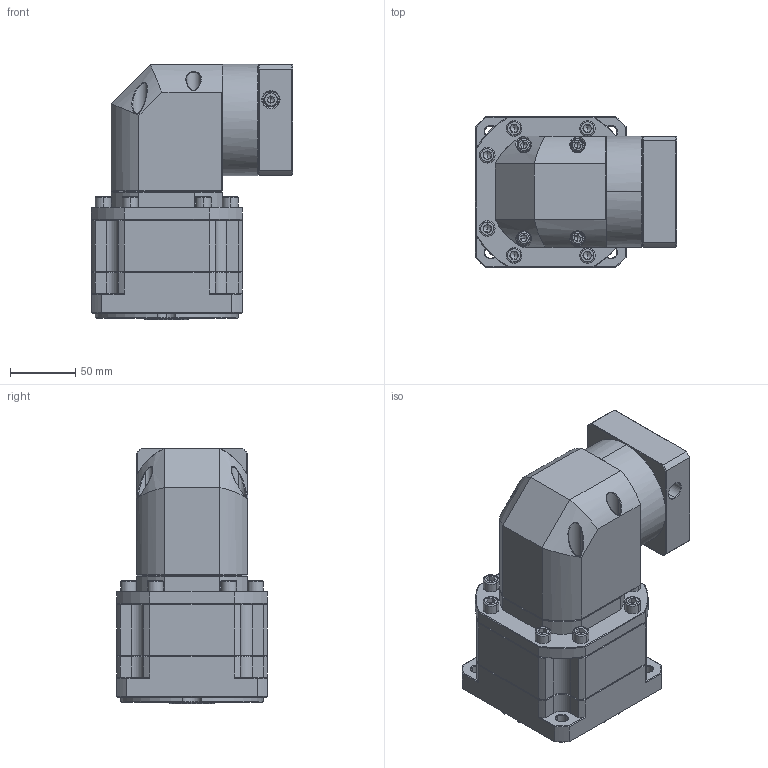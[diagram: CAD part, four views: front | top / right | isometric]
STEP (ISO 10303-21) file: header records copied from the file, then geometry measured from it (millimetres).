
FILE_DESCRIPTION (( 'STEP AP214' ), '1' );
FILE_NAME ('ZBR115A-K25-L2-P2-19-80-100-M6.step', '2023-08-26T13:36:49', ( '' ), ( '' ), 'SwSTEP 2.0', 'SolidWorks 2016', '' );
FILE_SCHEMA (( 'AUTOMOTIVE_DESIGN' ));
Length unit declared in the file: millimetre
Products named in the file (1): ZBR115A-K25-L2-P2-19-80-100-M6
Bounding box: 153.6 x 115 x 195 mm (x, y, z)
Volume: 1894998.3 mm3; surface area: 175576.9 mm2
Topology: 6 solids, 6 shells, 2546 faces, 6582 edges, 4147 vertices
Faces by surface type: plane 1272, cylinder 446, bspline 442, cone 372, torus 14
Entity records: 131874 total; most frequent: CARTESIAN_POINT 45413, ORIENTED_EDGE 13060, DIRECTION 10545, EDGE_CURVE 6530, LINE 4225, VECTOR 4225, VERTEX_POINT 4147, AXIS2_PLACEMENT_3D 3160
